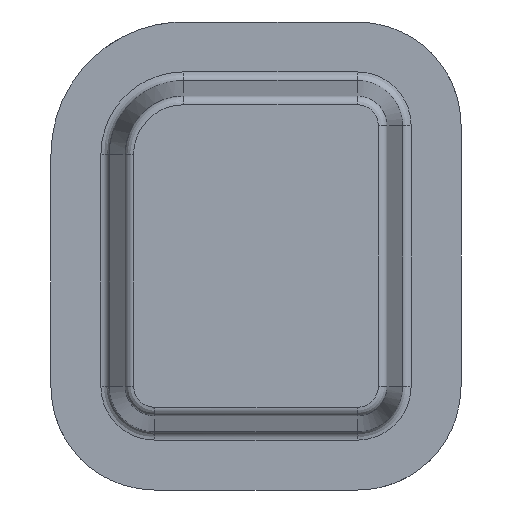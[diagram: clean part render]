
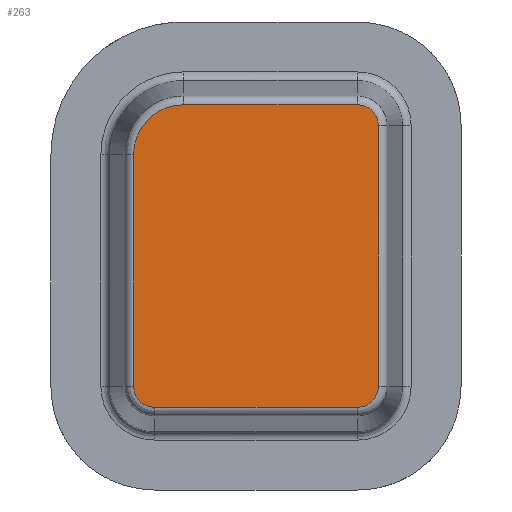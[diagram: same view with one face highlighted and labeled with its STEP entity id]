
A CAD part, front view. The second image highlights one B-rep face of the part: STEP entity #263.
In plain terms, the highlighted planar face has unit normal (0, -1, 0).
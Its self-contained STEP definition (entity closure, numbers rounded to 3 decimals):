
#144=CARTESIAN_POINT('Axis2P3D Location',(46.08,0.,53.92)) ;
#149=CARTESIAN_POINT('Line Origine',(2.749,0.,50.)) ;
#153=CARTESIAN_POINT('Vertex',(2.749,0.,90.)) ;
#155=CARTESIAN_POINT('Vertex',(2.749,0.,10.)) ;
#159=CARTESIAN_POINT('Control Point',(2.749,0.,10.)) ;
#160=CARTESIAN_POINT('Control Point',(2.749,0.,9.038)) ;
#161=CARTESIAN_POINT('Control Point',(2.908,0.,8.077)) ;
#162=CARTESIAN_POINT('Control Point',(3.227,0.,7.152)) ;
#163=CARTESIAN_POINT('Control Point',(4.157,0.,5.442)) ;
#164=CARTESIAN_POINT('Control Point',(5.589,0.,4.124)) ;
#165=CARTESIAN_POINT('Control Point',(6.409,0.,3.59)) ;
#166=CARTESIAN_POINT('Control Point',(7.599,0.,3.072)) ;
#167=CARTESIAN_POINT('Control Point',(8.86,0.,2.828)) ;
#168=CARTESIAN_POINT('Control Point',(9.179,0.,2.785)) ;
#169=CARTESIAN_POINT('Control Point',(9.535,0.,2.756)) ;
#170=CARTESIAN_POINT('Control Point',(9.892,0.,2.75)) ;
#171=CARTESIAN_POINT('Control Point',(9.928,0.,2.749)) ;
#172=CARTESIAN_POINT('Control Point',(9.964,0.,2.749)) ;
#173=CARTESIAN_POINT('Control Point',(10.,0.,2.749)) ;
#174=CARTESIAN_POINT('Vertex',(10.,0.,2.749)) ;
#177=CARTESIAN_POINT('Line Origine',(45.,0.,2.749)) ;
#181=CARTESIAN_POINT('Vertex',(80.,0.,2.749)) ;
#185=CARTESIAN_POINT('Control Point',(80.,0.,2.749)) ;
#186=CARTESIAN_POINT('Control Point',(80.962,0.,2.749)) ;
#187=CARTESIAN_POINT('Control Point',(81.923,0.,2.908)) ;
#188=CARTESIAN_POINT('Control Point',(82.848,0.,3.227)) ;
#189=CARTESIAN_POINT('Control Point',(84.558,0.,4.157)) ;
#190=CARTESIAN_POINT('Control Point',(85.876,0.,5.589)) ;
#191=CARTESIAN_POINT('Control Point',(86.41,0.,6.409)) ;
#192=CARTESIAN_POINT('Control Point',(86.928,0.,7.599)) ;
#193=CARTESIAN_POINT('Control Point',(87.172,0.,8.86)) ;
#194=CARTESIAN_POINT('Control Point',(87.215,0.,9.179)) ;
#195=CARTESIAN_POINT('Control Point',(87.244,0.,9.535)) ;
#196=CARTESIAN_POINT('Control Point',(87.25,0.,9.892)) ;
#197=CARTESIAN_POINT('Control Point',(87.251,0.,9.928)) ;
#198=CARTESIAN_POINT('Control Point',(87.251,0.,9.964)) ;
#199=CARTESIAN_POINT('Control Point',(87.251,0.,10.)) ;
#200=CARTESIAN_POINT('Vertex',(87.251,0.,10.)) ;
#203=CARTESIAN_POINT('Line Origine',(87.251,0.,55.)) ;
#207=CARTESIAN_POINT('Vertex',(87.251,0.,100.)) ;
#211=CARTESIAN_POINT('Control Point',(87.251,0.,100.)) ;
#212=CARTESIAN_POINT('Control Point',(87.251,0.,100.962)) ;
#213=CARTESIAN_POINT('Control Point',(87.092,0.,101.923)) ;
#214=CARTESIAN_POINT('Control Point',(86.773,0.,102.848)) ;
#215=CARTESIAN_POINT('Control Point',(85.843,0.,104.558)) ;
#216=CARTESIAN_POINT('Control Point',(84.411,0.,105.876)) ;
#217=CARTESIAN_POINT('Control Point',(83.591,0.,106.41)) ;
#218=CARTESIAN_POINT('Control Point',(82.401,0.,106.928)) ;
#219=CARTESIAN_POINT('Control Point',(81.14,0.,107.172)) ;
#220=CARTESIAN_POINT('Control Point',(80.821,0.,107.215)) ;
#221=CARTESIAN_POINT('Control Point',(80.465,0.,107.244)) ;
#222=CARTESIAN_POINT('Control Point',(80.108,0.,107.25)) ;
#223=CARTESIAN_POINT('Control Point',(80.072,0.,107.251)) ;
#224=CARTESIAN_POINT('Control Point',(80.036,0.,107.251)) ;
#225=CARTESIAN_POINT('Control Point',(80.,0.,107.251)) ;
#226=CARTESIAN_POINT('Vertex',(80.,0.,107.251)) ;
#229=CARTESIAN_POINT('Line Origine',(50.,0.,107.251)) ;
#233=CARTESIAN_POINT('Vertex',(20.,0.,107.251)) ;
#237=CARTESIAN_POINT('Control Point',(20.,0.,107.251)) ;
#238=CARTESIAN_POINT('Control Point',(18.077,0.,107.251)) ;
#239=CARTESIAN_POINT('Control Point',(16.154,0.,106.983)) ;
#240=CARTESIAN_POINT('Control Point',(14.282,0.,106.447)) ;
#241=CARTESIAN_POINT('Control Point',(10.736,0.,104.869)) ;
#242=CARTESIAN_POINT('Control Point',(7.757,0.,102.383)) ;
#243=CARTESIAN_POINT('Control Point',(6.451,0.,100.938)) ;
#244=CARTESIAN_POINT('Control Point',(4.493,0.,98.045)) ;
#245=CARTESIAN_POINT('Control Point',(3.313,0.,94.767)) ;
#246=CARTESIAN_POINT('Control Point',(2.954,0.,93.258)) ;
#247=CARTESIAN_POINT('Control Point',(2.762,0.,91.684)) ;
#248=CARTESIAN_POINT('Control Point',(2.749,0.,90.109)) ;
#249=CARTESIAN_POINT('Control Point',(2.749,0.,90.073)) ;
#250=CARTESIAN_POINT('Control Point',(2.749,0.,90.036)) ;
#251=CARTESIAN_POINT('Control Point',(2.749,0.,90.)) ;
#145=DIRECTION('Axis2P3D Direction',(0.,-1.,0.)) ;
#146=DIRECTION('Axis2P3D XDirection',(0.136,0.,0.991)) ;
#150=DIRECTION('Vector Direction',(0.,0.,1.)) ;
#178=DIRECTION('Vector Direction',(1.,0.,0.)) ;
#204=DIRECTION('Vector Direction',(0.,0.,1.)) ;
#230=DIRECTION('Vector Direction',(-1.,0.,0.)) ;
#147=AXIS2_PLACEMENT_3D('Plane Axis2P3D',#144,#145,#146) ;
#254=ORIENTED_EDGE('',*,*,#157,.T.) ;
#255=ORIENTED_EDGE('',*,*,#176,.T.) ;
#256=ORIENTED_EDGE('',*,*,#183,.T.) ;
#257=ORIENTED_EDGE('',*,*,#202,.T.) ;
#258=ORIENTED_EDGE('',*,*,#209,.T.) ;
#259=ORIENTED_EDGE('',*,*,#228,.T.) ;
#260=ORIENTED_EDGE('',*,*,#235,.T.) ;
#261=ORIENTED_EDGE('',*,*,#252,.T.) ;
#151=VECTOR('Line Direction',#150,1.) ;
#179=VECTOR('Line Direction',#178,1.) ;
#205=VECTOR('Line Direction',#204,1.) ;
#231=VECTOR('Line Direction',#230,1.) ;
#263=ADVANCED_FACE('base',(#262),#148,.T.) ;
#158=B_SPLINE_CURVE_WITH_KNOTS('',5,(#159,#160,#161,#162,#163,#164,#165,#166,#167,#168,#169,#170,#171,#172,#173),.UNSPECIFIED.,.F.,.U.,(6,3,3,3,6),(27.117,37.129,47.146,50.484,50.86),.UNSPECIFIED.) ;
#184=B_SPLINE_CURVE_WITH_KNOTS('',5,(#185,#186,#187,#188,#189,#190,#191,#192,#193,#194,#195,#196,#197,#198,#199),.UNSPECIFIED.,.F.,.U.,(6,3,3,3,6),(27.117,37.129,47.146,50.484,50.86),.UNSPECIFIED.) ;
#210=B_SPLINE_CURVE_WITH_KNOTS('',5,(#211,#212,#213,#214,#215,#216,#217,#218,#219,#220,#221,#222,#223,#224,#225),.UNSPECIFIED.,.F.,.U.,(6,3,3,3,6),(27.117,37.129,47.146,50.484,50.86),.UNSPECIFIED.) ;
#236=B_SPLINE_CURVE_WITH_KNOTS('',5,(#237,#238,#239,#240,#241,#242,#243,#244,#245,#246,#247,#248,#249,#250,#251),.UNSPECIFIED.,.F.,.U.,(6,3,3,3,6),(39.176,55.249,71.341,84.205,84.509),.UNSPECIFIED.) ;
#157=EDGE_CURVE('',#154,#156,#152,.F.) ;
#176=EDGE_CURVE('',#156,#175,#158,.T.) ;
#183=EDGE_CURVE('',#175,#182,#180,.T.) ;
#202=EDGE_CURVE('',#182,#201,#184,.T.) ;
#209=EDGE_CURVE('',#201,#208,#206,.T.) ;
#228=EDGE_CURVE('',#208,#227,#210,.T.) ;
#235=EDGE_CURVE('',#227,#234,#232,.T.) ;
#252=EDGE_CURVE('',#234,#154,#236,.T.) ;
#253=EDGE_LOOP('',(#254,#255,#256,#257,#258,#259,#260,#261)) ;
#262=FACE_OUTER_BOUND('',#253,.T.) ;
#152=LINE('Line',#149,#151) ;
#180=LINE('Line',#177,#179) ;
#206=LINE('Line',#203,#205) ;
#232=LINE('Line',#229,#231) ;
#148=PLANE('',#147) ;
#154=VERTEX_POINT('',#153) ;
#156=VERTEX_POINT('',#155) ;
#175=VERTEX_POINT('',#174) ;
#182=VERTEX_POINT('',#181) ;
#201=VERTEX_POINT('',#200) ;
#208=VERTEX_POINT('',#207) ;
#227=VERTEX_POINT('',#226) ;
#234=VERTEX_POINT('',#233) ;
